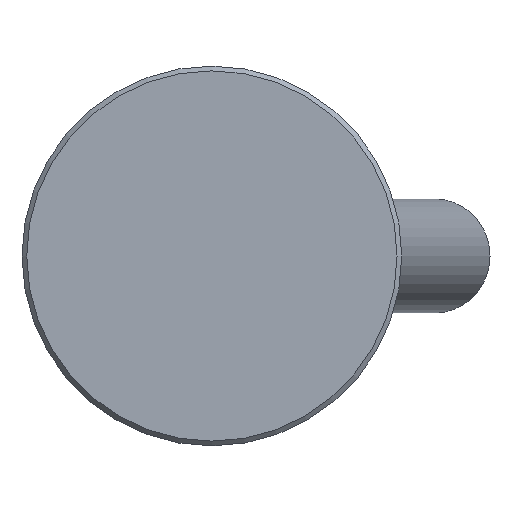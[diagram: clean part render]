
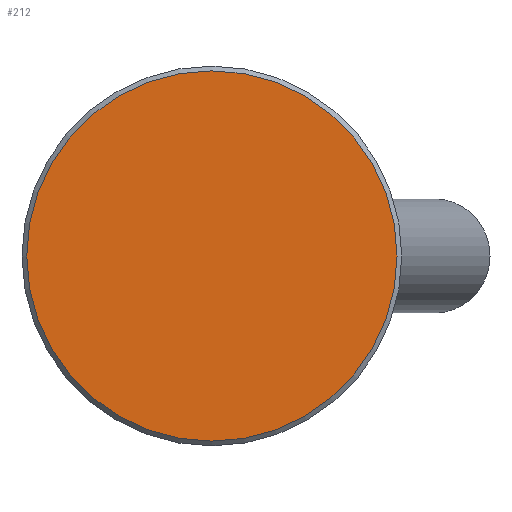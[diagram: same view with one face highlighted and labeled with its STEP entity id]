
A CAD part, front view. The second image highlights one B-rep face of the part: STEP entity #212.
In plain terms, the highlighted planar face has unit normal (0, -1, 0).
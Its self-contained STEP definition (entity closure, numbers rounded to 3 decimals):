
#212 = ADVANCED_FACE( '', ( #410 ), #411, .F. );
#410 = FACE_OUTER_BOUND( '', #606, .T. );
#411 = PLANE( '', #607 );
#606 = EDGE_LOOP( '', ( #948 ) );
#607 = AXIS2_PLACEMENT_3D( '', #949, #950, #951 );
#948 = ORIENTED_EDGE( '', *, *, #1217, .T. );
#949 = CARTESIAN_POINT( '', ( 19.5, 0., 0. ) );
#950 = DIRECTION( '', ( 0., 1., 0. ) );
#951 = DIRECTION( '', ( 0., 0., 1. ) );
#1217 = EDGE_CURVE( '', #1430, #1430, #1431, .T. );
#1430 = VERTEX_POINT( '', #1906 );
#1431 = CIRCLE( '', #1907, 19.5 );
#1906 = CARTESIAN_POINT( '', ( 0., 0., -19.5 ) );
#1907 = AXIS2_PLACEMENT_3D( '', #2076, #2077, #2078 );
#2076 = CARTESIAN_POINT( '', ( 0., 0., 0. ) );
#2077 = DIRECTION( '', ( 0., -1., 0. ) );
#2078 = DIRECTION( '', ( 0., 0., -1. ) );
